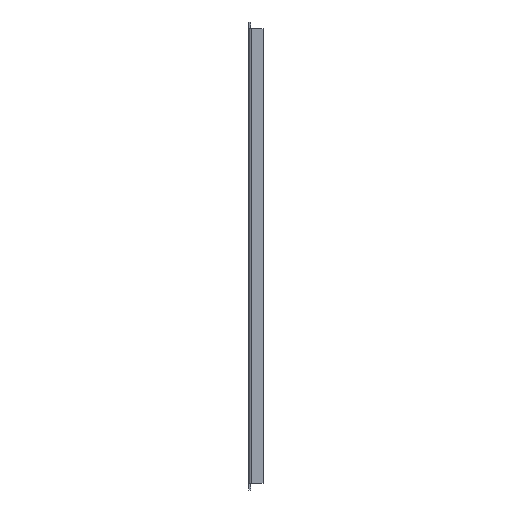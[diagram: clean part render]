
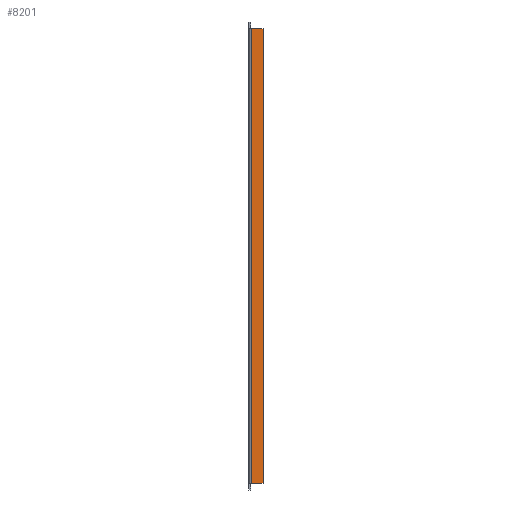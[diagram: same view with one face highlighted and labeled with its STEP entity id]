
A CAD part, left-side view. The second image highlights one B-rep face of the part: STEP entity #8201.
In plain terms, the highlighted planar face has unit normal (-1, 0, 0).
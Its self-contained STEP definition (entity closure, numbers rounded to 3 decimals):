
#4431=CARTESIAN_POINT(' ',(-259.5,-2.6,-242.5));
#4432=VERTEX_POINT(' ',#4431);
#4446=CARTESIAN_POINT(' ',(-259.5,-2.6,-242.5));
#4451=DIRECTION(' ',(0.,0.,1.));
#4456=VECTOR(' ',#4451,1.);
#4461=LINE('',#4446,#4456);
#4466=CARTESIAN_POINT(' ',(-259.5,-2.6,242.5));
#4467=VERTEX_POINT(' ',#4466);
#4471=EDGE_CURVE(' ',#4432,#4467,#4461,.T.);
#8026=CARTESIAN_POINT(' ',(-259.5,-15.,-242.5));
#8027=VERTEX_POINT(' ',#8026);
#8041=CARTESIAN_POINT(' ',(-259.5,-15.,-242.5));
#8046=DIRECTION(' ',(0.,1.,0.));
#8051=VECTOR(' ',#8046,1.);
#8056=LINE('',#8041,#8051);
#8061=EDGE_CURVE(' ',#8027,#4432,#8056,.T.);
#8091=DIRECTION(' ',(-1.,0.,0.));
#8096=CARTESIAN_POINT(' ',(-259.5,-2.6,242.5));
#8101=DIRECTION(' ',(-0.,0.,-1.));
#8106=AXIS2_PLACEMENT_3D(' ',#8096,#8091,#8101);
#8111=PLANE('NONE',#8106);
#8116=ORIENTED_EDGE(' ',*,*,#4471,.F.);
#8121=ORIENTED_EDGE(' ',*,*,#8061,.F.);
#8126=CARTESIAN_POINT(' ',(-259.5,-15.,242.5));
#8131=DIRECTION(' ',(0.,0.,-1.));
#8136=VECTOR(' ',#8131,1.);
#8141=LINE('',#8126,#8136);
#8146=CARTESIAN_POINT(' ',(-259.5,-15.,242.5));
#8147=VERTEX_POINT(' ',#8146);
#8151=EDGE_CURVE(' ',#8147,#8027,#8141,.T.);
#8156=ORIENTED_EDGE(' ',*,*,#8151,.F.);
#8161=CARTESIAN_POINT(' ',(-259.5,-2.6,242.5));
#8166=DIRECTION(' ',(0.,-1.,0.));
#8171=VECTOR(' ',#8166,1.);
#8176=LINE('',#8161,#8171);
#8181=EDGE_CURVE(' ',#4467,#8147,#8176,.T.);
#8186=ORIENTED_EDGE(' ',*,*,#8181,.F.);
#8191=EDGE_LOOP(' ',(#8116,#8121,#8156,#8186));
#8196=FACE_OUTER_BOUND(' ',#8191,.T.);
#8201=ADVANCED_FACE('NONE',(#8196),#8111,.T.);
